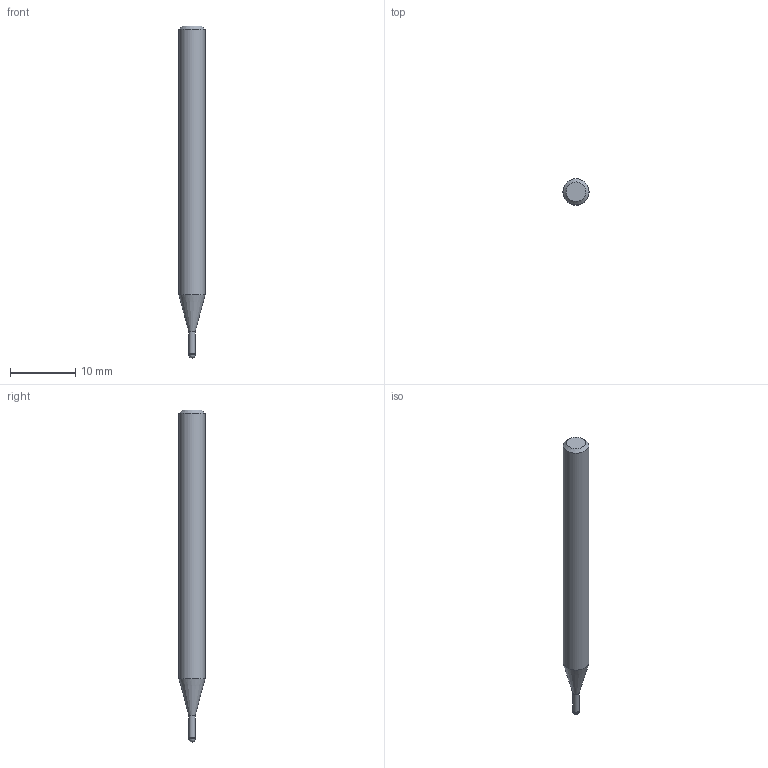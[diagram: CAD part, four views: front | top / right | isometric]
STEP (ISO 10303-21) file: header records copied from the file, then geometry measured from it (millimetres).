
FILE_DESCRIPTION((''),'2;1');
FILE_NAME('C:\Users\nsx150\AppData\Local\Temp\Mastercam 2021\LJSIDMOTM8\TEMP.step','2021-08-03T14:24:03',(''),(''),'STEP Write','Mastercam 2021 ... CNC Software, Inc.','');
FILE_SCHEMA(('AUTOMOTIVE_DESIGN'));
Length unit declared in the file: millimetre
Products named in the file (1): None
Bounding box: 4 x 4 x 51 mm (x, y, z)
Volume: 551.3 mm3; surface area: 587 mm2
Topology: 2 solids, 2 shells, 9 faces, 14 edges, 8 vertices
Faces by surface type: plane 3, cylinder 3, cone 2, sphere 1
Full cylindrical faces by diameter (mm): 0.95 x1, 1 x1, 4 x1
Entity records: 211 total; most frequent: DIRECTION 36, CARTESIAN_POINT 25, AXIS2_PLACEMENT_3D 18, ORIENTED_EDGE 14, EDGE_LOOP 14, STYLED_ITEM 12, ADVANCED_FACE 9, FACE_BOUND 8
